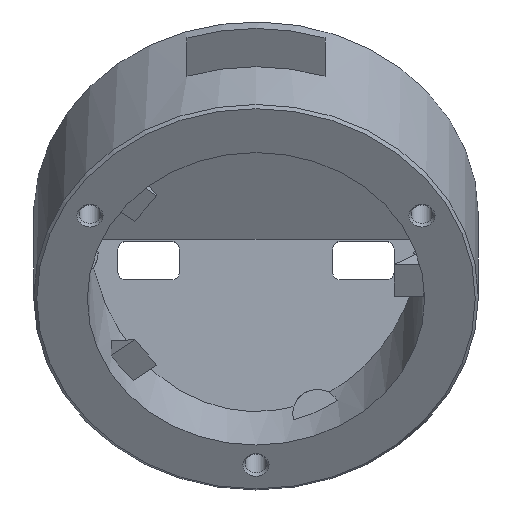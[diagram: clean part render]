
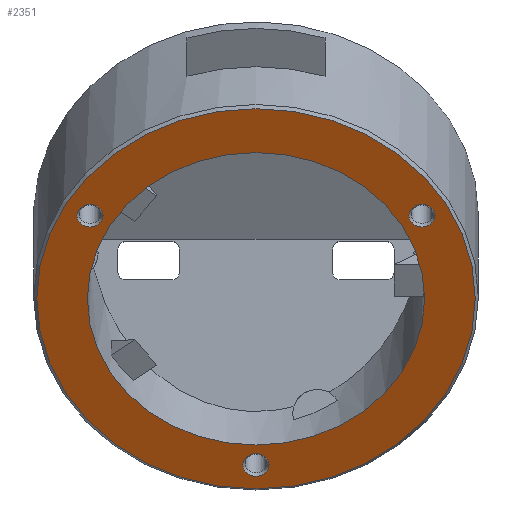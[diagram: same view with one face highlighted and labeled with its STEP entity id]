
A CAD part, top view. The second image highlights one B-rep face of the part: STEP entity #2351.
In plain terms, the highlighted planar face has unit normal (0, -0.5, 0.866).
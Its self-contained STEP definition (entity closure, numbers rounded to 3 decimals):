
#166 = CONICAL_SURFACE('',#167,29.,0.785);
#167 = AXIS2_PLACEMENT_3D('',#168,#169,#170);
#168 = CARTESIAN_POINT('',(0.,0.2,20.654));
#169 = DIRECTION('',(-0.,0.5,-0.866));
#170 = DIRECTION('',(1.,0.,0.));
#909 = VERTEX_POINT('',#910);
#910 = CARTESIAN_POINT('',(28.6,0.,21.));
#933 = EDGE_CURVE('',#909,#909,#934,.T.);
#934 = SURFACE_CURVE('',#935,(#940,#947),.PCURVE_S1.);
#935 = CIRCLE('',#936,28.6);
#936 = AXIS2_PLACEMENT_3D('',#937,#938,#939);
#937 = CARTESIAN_POINT('',(0.,0.,21.));
#938 = DIRECTION('',(0.,-0.5,0.866));
#939 = DIRECTION('',(1.,0.,0.));
#940 = PCURVE('',#166,#941);
#941 = DEFINITIONAL_REPRESENTATION('',(#942),#946);
#942 = LINE('',#943,#944);
#943 = CARTESIAN_POINT('',(-0.,-0.4));
#944 = VECTOR('',#945,1.);
#945 = DIRECTION('',(-1.,-0.));
#946 = ( GEOMETRIC_REPRESENTATION_CONTEXT(2) 
PARAMETRIC_REPRESENTATION_CONTEXT() REPRESENTATION_CONTEXT('2D SPACE',''
  ) );
#947 = PCURVE('',#948,#953);
#948 = PLANE('',#949);
#949 = AXIS2_PLACEMENT_3D('',#950,#951,#952);
#950 = CARTESIAN_POINT('',(0.,0.,21.)
  );
#951 = DIRECTION('',(0.,-0.5,0.866));
#952 = DIRECTION('',(1.,0.,0.));
#953 = DEFINITIONAL_REPRESENTATION('',(#954),#958);
#954 = CIRCLE('',#955,28.6);
#955 = AXIS2_PLACEMENT_2D('',#956,#957);
#956 = CARTESIAN_POINT('',(0.,0.));
#957 = DIRECTION('',(1.,0.));
#958 = ( GEOMETRIC_REPRESENTATION_CONTEXT(2) 
PARAMETRIC_REPRESENTATION_CONTEXT() REPRESENTATION_CONTEXT('2D SPACE',''
  ) );
#1105 = CYLINDRICAL_SURFACE('',#1106,22.);
#1106 = AXIS2_PLACEMENT_3D('',#1107,#1108,#1109);
#1107 = CARTESIAN_POINT('',(0.,45.,-56.942));
#1108 = DIRECTION('',(-0.,0.5,-0.866));
#1109 = DIRECTION('',(1.,0.,0.));
#2351 = ADVANCED_FACE('',(#2352,#2355,#2386,#2417,#2447),#948,.T.);
#2352 = FACE_BOUND('',#2353,.T.);
#2353 = EDGE_LOOP('',(#2354));
#2354 = ORIENTED_EDGE('',*,*,#933,.T.);
#2355 = FACE_BOUND('',#2356,.T.);
#2356 = EDGE_LOOP('',(#2357));
#2357 = ORIENTED_EDGE('',*,*,#2358,.F.);
#2358 = EDGE_CURVE('',#2359,#2359,#2361,.T.);
#2359 = VERTEX_POINT('',#2360);
#2360 = CARTESIAN_POINT('',(1.7,-21.651,8.5));
#2361 = SURFACE_CURVE('',#2362,(#2367,#2374),.PCURVE_S1.);
#2362 = CIRCLE('',#2363,1.7);
#2363 = AXIS2_PLACEMENT_3D('',#2364,#2365,#2366);
#2364 = CARTESIAN_POINT('',(0.,-21.651,8.5));
#2365 = DIRECTION('',(0.,-0.5,0.866));
#2366 = DIRECTION('',(1.,0.,0.));
#2367 = PCURVE('',#948,#2368);
#2368 = DEFINITIONAL_REPRESENTATION('',(#2369),#2373);
#2369 = CIRCLE('',#2370,1.7);
#2370 = AXIS2_PLACEMENT_2D('',#2371,#2372);
#2371 = CARTESIAN_POINT('',(0.,-25.));
#2372 = DIRECTION('',(1.,0.));
#2373 = ( GEOMETRIC_REPRESENTATION_CONTEXT(2) 
PARAMETRIC_REPRESENTATION_CONTEXT() REPRESENTATION_CONTEXT('2D SPACE',''
  ) );
#2374 = PCURVE('',#2375,#2380);
#2375 = CONICAL_SURFACE('',#2376,1.4,0.644);
#2376 = AXIS2_PLACEMENT_3D('',#2377,#2378,#2379);
#2377 = CARTESIAN_POINT('',(0.,-21.451,
    8.154));
#2378 = DIRECTION('',(0.,-0.5,0.866));
#2379 = DIRECTION('',(1.,0.,0.));
#2380 = DEFINITIONAL_REPRESENTATION('',(#2381),#2385);
#2381 = LINE('',#2382,#2383);
#2382 = CARTESIAN_POINT('',(0.,0.4));
#2383 = VECTOR('',#2384,1.);
#2384 = DIRECTION('',(1.,0.));
#2385 = ( GEOMETRIC_REPRESENTATION_CONTEXT(2) 
PARAMETRIC_REPRESENTATION_CONTEXT() REPRESENTATION_CONTEXT('2D SPACE',''
  ) );
#2386 = FACE_BOUND('',#2387,.T.);
#2387 = EDGE_LOOP('',(#2388));
#2388 = ORIENTED_EDGE('',*,*,#2389,.F.);
#2389 = EDGE_CURVE('',#2390,#2390,#2392,.T.);
#2390 = VERTEX_POINT('',#2391);
#2391 = CARTESIAN_POINT('',(-19.951,10.825,27.25));
#2392 = SURFACE_CURVE('',#2393,(#2398,#2405),.PCURVE_S1.);
#2393 = CIRCLE('',#2394,1.7);
#2394 = AXIS2_PLACEMENT_3D('',#2395,#2396,#2397);
#2395 = CARTESIAN_POINT('',(-21.651,10.825,27.25));
#2396 = DIRECTION('',(0.,-0.5,0.866));
#2397 = DIRECTION('',(1.,0.,0.));
#2398 = PCURVE('',#948,#2399);
#2399 = DEFINITIONAL_REPRESENTATION('',(#2400),#2404);
#2400 = CIRCLE('',#2401,1.7);
#2401 = AXIS2_PLACEMENT_2D('',#2402,#2403);
#2402 = CARTESIAN_POINT('',(-21.651,12.5));
#2403 = DIRECTION('',(1.,0.));
#2404 = ( GEOMETRIC_REPRESENTATION_CONTEXT(2) 
PARAMETRIC_REPRESENTATION_CONTEXT() REPRESENTATION_CONTEXT('2D SPACE',''
  ) );
#2405 = PCURVE('',#2406,#2411);
#2406 = CONICAL_SURFACE('',#2407,1.4,0.644);
#2407 = AXIS2_PLACEMENT_3D('',#2408,#2409,#2410);
#2408 = CARTESIAN_POINT('',(-21.651,11.025,
    26.904));
#2409 = DIRECTION('',(0.,-0.5,0.866));
#2410 = DIRECTION('',(1.,0.,0.));
#2411 = DEFINITIONAL_REPRESENTATION('',(#2412),#2416);
#2412 = LINE('',#2413,#2414);
#2413 = CARTESIAN_POINT('',(0.,0.4));
#2414 = VECTOR('',#2415,1.);
#2415 = DIRECTION('',(1.,0.));
#2416 = ( GEOMETRIC_REPRESENTATION_CONTEXT(2) 
PARAMETRIC_REPRESENTATION_CONTEXT() REPRESENTATION_CONTEXT('2D SPACE',''
  ) );
#2417 = FACE_BOUND('',#2418,.T.);
#2418 = EDGE_LOOP('',(#2419));
#2419 = ORIENTED_EDGE('',*,*,#2420,.T.);
#2420 = EDGE_CURVE('',#2421,#2421,#2423,.T.);
#2421 = VERTEX_POINT('',#2422);
#2422 = CARTESIAN_POINT('',(22.,0.,21.));
#2423 = SURFACE_CURVE('',#2424,(#2429,#2440),.PCURVE_S1.);
#2424 = CIRCLE('',#2425,22.);
#2425 = AXIS2_PLACEMENT_3D('',#2426,#2427,#2428);
#2426 = CARTESIAN_POINT('',(0.,0.,21.));
#2427 = DIRECTION('',(0.,0.5,-0.866));
#2428 = DIRECTION('',(1.,0.,0.));
#2429 = PCURVE('',#948,#2430);
#2430 = DEFINITIONAL_REPRESENTATION('',(#2431),#2439);
#2431 = ( BOUNDED_CURVE() B_SPLINE_CURVE(2,(#2432,#2433,#2434,#2435,
#2436,#2437,#2438),.UNSPECIFIED.,.T.,.F.) B_SPLINE_CURVE_WITH_KNOTS((1,2
    ,2,2,2,1),(-2.094,0.,2.094,4.189,
6.283,8.378),.UNSPECIFIED.) CURVE() 
GEOMETRIC_REPRESENTATION_ITEM() RATIONAL_B_SPLINE_CURVE((1.,0.5,1.,0.5,
1.,0.5,1.)) REPRESENTATION_ITEM('') );
#2432 = CARTESIAN_POINT('',(22.,0.));
#2433 = CARTESIAN_POINT('',(22.,-38.105));
#2434 = CARTESIAN_POINT('',(-11.,-19.053));
#2435 = CARTESIAN_POINT('',(-44.,0.));
#2436 = CARTESIAN_POINT('',(-11.,19.053));
#2437 = CARTESIAN_POINT('',(22.,38.105));
#2438 = CARTESIAN_POINT('',(22.,0.));
#2439 = ( GEOMETRIC_REPRESENTATION_CONTEXT(2) 
PARAMETRIC_REPRESENTATION_CONTEXT() REPRESENTATION_CONTEXT('2D SPACE',''
  ) );
#2440 = PCURVE('',#1105,#2441);
#2441 = DEFINITIONAL_REPRESENTATION('',(#2442),#2446);
#2442 = LINE('',#2443,#2444);
#2443 = CARTESIAN_POINT('',(-6.283,-90.));
#2444 = VECTOR('',#2445,1.);
#2445 = DIRECTION('',(1.,-0.));
#2446 = ( GEOMETRIC_REPRESENTATION_CONTEXT(2) 
PARAMETRIC_REPRESENTATION_CONTEXT() REPRESENTATION_CONTEXT('2D SPACE',''
  ) );
#2447 = FACE_BOUND('',#2448,.T.);
#2448 = EDGE_LOOP('',(#2449));
#2449 = ORIENTED_EDGE('',*,*,#2450,.F.);
#2450 = EDGE_CURVE('',#2451,#2451,#2453,.T.);
#2451 = VERTEX_POINT('',#2452);
#2452 = CARTESIAN_POINT('',(23.351,10.825,27.25));
#2453 = SURFACE_CURVE('',#2454,(#2459,#2466),.PCURVE_S1.);
#2454 = CIRCLE('',#2455,1.7);
#2455 = AXIS2_PLACEMENT_3D('',#2456,#2457,#2458);
#2456 = CARTESIAN_POINT('',(21.651,10.825,27.25));
#2457 = DIRECTION('',(0.,-0.5,0.866));
#2458 = DIRECTION('',(1.,0.,0.));
#2459 = PCURVE('',#948,#2460);
#2460 = DEFINITIONAL_REPRESENTATION('',(#2461),#2465);
#2461 = CIRCLE('',#2462,1.7);
#2462 = AXIS2_PLACEMENT_2D('',#2463,#2464);
#2463 = CARTESIAN_POINT('',(21.651,12.5));
#2464 = DIRECTION('',(1.,0.));
#2465 = ( GEOMETRIC_REPRESENTATION_CONTEXT(2) 
PARAMETRIC_REPRESENTATION_CONTEXT() REPRESENTATION_CONTEXT('2D SPACE',''
  ) );
#2466 = PCURVE('',#2467,#2472);
#2467 = CONICAL_SURFACE('',#2468,1.4,0.644);
#2468 = AXIS2_PLACEMENT_3D('',#2469,#2470,#2471);
#2469 = CARTESIAN_POINT('',(21.651,11.025,
    26.904));
#2470 = DIRECTION('',(0.,-0.5,0.866));
#2471 = DIRECTION('',(1.,0.,0.));
#2472 = DEFINITIONAL_REPRESENTATION('',(#2473),#2477);
#2473 = LINE('',#2474,#2475);
#2474 = CARTESIAN_POINT('',(0.,0.4));
#2475 = VECTOR('',#2476,1.);
#2476 = DIRECTION('',(1.,0.));
#2477 = ( GEOMETRIC_REPRESENTATION_CONTEXT(2) 
PARAMETRIC_REPRESENTATION_CONTEXT() REPRESENTATION_CONTEXT('2D SPACE',''
  ) );
